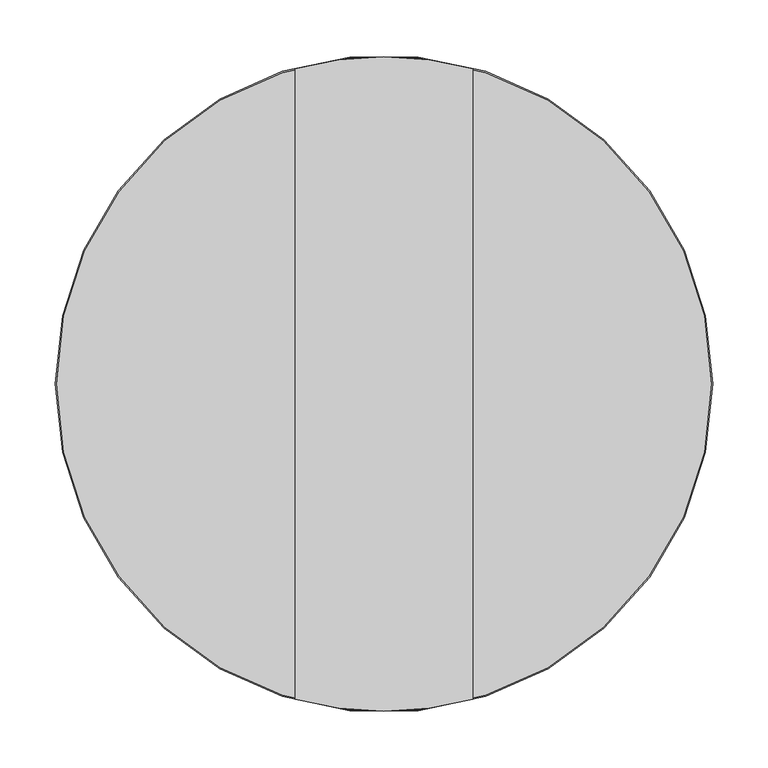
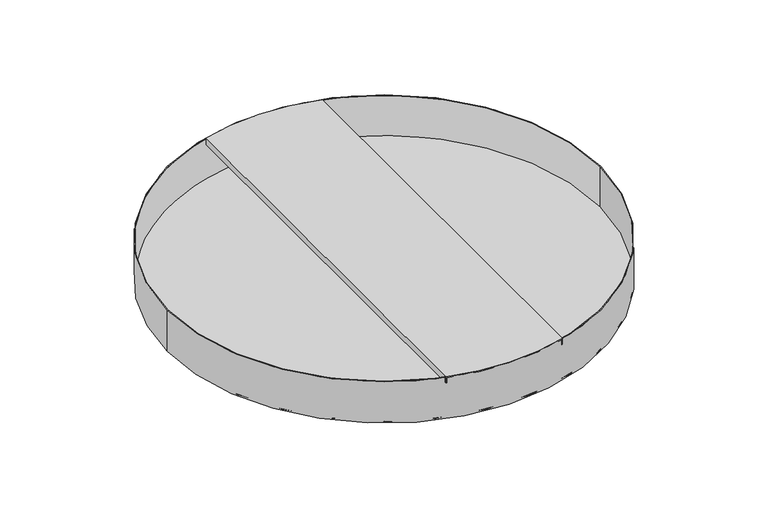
"""IFC4 building model written with IfcOpenShell, lengths in millimetres: proxy geometry, durlum_TOMEO-R : durlum_TOMEO-R 600 RG-L30 TR."""

from ifc_helpers import new_model, si_unit, point, frame, origin, origin_with_axes, origin_2d, place, context, project, spatial, circle_curve, trimmed, segment, composite_curve, outline, extrude, source, transform, mapped, element, save
from ifc_brep_helpers import plane_surface, cylinder_surface, advanced_brep


def generic_models_1725dbb2(model_context):
    return source(origin(), model_context, "Body", "SolidModel", [
        advanced_brep(
        [(-80.0, 284.4648484, 60.0), (-80.0, -284.4648484, 60.0), (0.0, -295.5, 60.0), (80.0, -284.4648484, 60.0), (80.0, 284.4648484, 60.0), (0.0, 295.5, 60.0), (80.0, -284.4648484, 51.2547795), (80.0, 284.4648484, 51.2547795), (78.5, -284.8824319, 51.2547795), (78.5, 284.8824319, 51.2547795), (78.5, -284.8824319, 58.5), (78.5, 284.8824319, 58.5), (0.0, -295.5, 58.5), (-78.5, -284.8824319, 58.5), (-78.5, 284.8824319, 58.5), (0.0, 295.5, 58.5), (-78.5, -284.8824319, 51.2547795), (-78.5, 284.8824319, 51.2547795), (-80.0, -284.4648484, 51.2547795), (-80.0, 284.4648484, 51.2547795)],
        [
            (0, 1),
            (1, 2, circle_curve(frame((0.0, 0.0, 60.0), z_axis=(0.0, 0.0, 1.0), x_axis=(0.0, -1.0, 0.0)), 295.5)),
            (2, 3, circle_curve(frame((0.0, 0.0, 60.0), z_axis=(0.0, 0.0, 1.0), x_axis=(0.0, -1.0, 0.0)), 295.5)),
            (3, 4),
            (4, 5, circle_curve(frame((0.0, 0.0, 60.0), z_axis=(0.0, 0.0, 1.0), x_axis=(0.0, -1.0, 0.0)), 295.5)),
            (5, 0, circle_curve(frame((0.0, 0.0, 60.0), z_axis=(0.0, 0.0, 1.0), x_axis=(0.0, -1.0, 0.0)), 295.5)),
            (3, 6),
            (6, 7),
            (7, 4),
            (6, 8, circle_curve(frame((0.0, 0.0, 51.2547795), z_axis=(0.0, 0.0, -1.0), x_axis=(0.0, -1.0, 0.0)), 295.5)),
            (8, 9),
            (9, 7, circle_curve(frame((0.0, 0.0, 51.2547795), z_axis=(0.0, 0.0, -1.0), x_axis=(0.0, -1.0, 0.0)), 295.5)),
            (8, 10),
            (10, 11),
            (11, 9),
            (10, 12, circle_curve(frame((0.0, 0.0, 58.5), z_axis=(0.0, 0.0, -1.0), x_axis=(0.0, -1.0, 0.0)), 295.5)),
            (12, 13, circle_curve(frame((0.0, 0.0, 58.5), z_axis=(0.0, 0.0, -1.0), x_axis=(0.0, -1.0, 0.0)), 295.5)),
            (13, 14),
            (14, 15, circle_curve(frame((0.0, 0.0, 58.5), z_axis=(0.0, 0.0, -1.0), x_axis=(0.0, -1.0, 0.0)), 295.5)),
            (15, 11, circle_curve(frame((0.0, 0.0, 58.5), z_axis=(0.0, 0.0, -1.0), x_axis=(0.0, -1.0, 0.0)), 295.5)),
            (13, 16),
            (16, 17),
            (17, 14),
            (16, 18, circle_curve(frame((0.0, 0.0, 51.2547795), z_axis=(0.0, 0.0, -1.0), x_axis=(0.0, -1.0, 0.0)), 295.5)),
            (18, 19),
            (19, 17, circle_curve(frame((0.0, 0.0, 51.2547795), z_axis=(0.0, 0.0, -1.0), x_axis=(0.0, -1.0, 0.0)), 295.5)),
            (0, 19),
            (18, 1),
            (5, 15),
            (12, 2),
        ],
        [
            plane_surface(frame((-80.0, 295.5, 60.0), z_axis=(0.0, 0.0, 1.0), x_axis=(0.0, -1.0, 0.0))),
            plane_surface(frame((80.0, 295.5, 60.0), z_axis=(1.0, 0.0, 0.0), x_axis=(0.0, -1.0, 0.0))),
            plane_surface(frame((80.0, 295.5, 51.2547795), z_axis=(0.0, 0.0, -1.0), x_axis=(0.0, -1.0, 0.0))),
            plane_surface(frame((78.5, 295.5, 51.2547795), z_axis=(-1.0, 0.0, 0.0), x_axis=(0.0, -1.0, 0.0))),
            plane_surface(frame((78.5, 295.5, 58.5), z_axis=(0.0, 0.0, -1.0), x_axis=(0.0, -1.0, 0.0))),
            plane_surface(frame((-78.5, 295.5, 58.5), z_axis=(1.0, 0.0, 0.0), x_axis=(0.0, -1.0, 0.0))),
            plane_surface(frame((-78.5, 295.5, 51.2547795), z_axis=(0.0, 0.0, -1.0), x_axis=(0.0, -1.0, 0.0))),
            plane_surface(frame((-80.0, 295.5, 51.2547795), z_axis=(-1.0, 0.0, 0.0), x_axis=(0.0, -1.0, 0.0))),
            cylinder_surface(frame((0.0, 0.0, 243.6547052), z_axis=(0.0, 0.0, -1.0), x_axis=(0.0, -1.0, 0.0)), 295.5),
        ],
        [
            (0, [[1, 2, 3, 4, 5, 6]]),
            (1, [[-4, 7, 8, 9]]),
            (2, [[-8, 10, 11, 12]]),
            (3, [[-11, 13, 14, 15]]),
            (4, [[-14, 16, 17, 18, 19, 20]]),
            (5, [[-18, 21, 22, 23]]),
            (6, [[-22, 24, 25, 26]]),
            (7, [[-1, 27, -25, 28]]),
            (8, [[29, -19, -23, -26, -27, -6]]),
            (8, [[30, -2, -28, -24, -21, -17]]),
            (8, [[-29, -5, -9, -12, -15, -20]]),
            (8, [[-30, -16, -13, -10, -7, -3]]),
        ],
    ),
        extrude(outline(composite_curve([segment(trimmed(circle_curve(origin_2d(), 295.5), [point((-295.5, 0.0))], [point((295.5, 0.0))], False, "CARTESIAN"), True, "CONTINUOUS"), segment(trimmed(circle_curve(origin_2d(), 295.5), [point((295.5, 0.0))], [point((-295.5, 0.0))], False, "CARTESIAN"), True, "CONTINUOUS")], self_intersect=False)), frame((0.0, 0.0, 1.0), z_axis=(0.0, 0.0, 1.0), x_axis=(1.0, 0.0, 0.0)), (0.0, 0.0, 1.0), 1.0),
        extrude(outline(composite_curve([segment(trimmed(circle_curve(origin_2d(), 295.5), [point((-295.5, 0.0))], [point((295.5, 0.0))], False, "CARTESIAN"), True, "CONTINUOUS"), segment(trimmed(circle_curve(origin_2d(), 295.5), [point((295.5, 0.0))], [point((-295.5, 0.0))], False, "CARTESIAN"), True, "CONTINUOUS")], self_intersect=False)), origin_with_axes(), (0.0, 0.0, 1.0), 1.0),
        extrude(outline(composite_curve([segment(trimmed(circle_curve(origin_2d(), 296.5), [point((-296.5, 0.0))], [point((296.5, 0.0))], False, "CARTESIAN"), True, "CONTINUOUS"), segment(trimmed(circle_curve(origin_2d(), 296.5), [point((296.5, 0.0))], [point((-296.5, 0.0))], False, "CARTESIAN"), True, "CONTINUOUS")], self_intersect=False), holes=[composite_curve([segment(trimmed(circle_curve(origin_2d(), 295.5), [point((-295.5, 0.0))], [point((295.5, 0.0))], True, "CARTESIAN"), True, "CONTINUOUS"), segment(trimmed(circle_curve(origin_2d(), 295.5), [point((295.5, 0.0))], [point((-295.5, 0.0))], True, "CARTESIAN"), True, "CONTINUOUS")], self_intersect=False)]), origin_with_axes(), (0.0, 0.0, 1.0), 60.0),
    ])


if __name__ == "__main__":
    model = new_model("IFC4")
    model_context = context("Model", 3, world=origin())
    ifc_project = project(units=[si_unit("LENGTHUNIT", "METRE", prefix="MILLI")], contexts=[model_context])
    site = spatial("IfcSite", under=ifc_project)
    building = spatial("IfcBuilding", under=site)
    placement = place(None, origin())
    generic_models_shape = generic_models_1725dbb2(model_context)
    element("IfcBuildingElementProxy", 1, Name="durlum_TOMEO-R : durlum_TOMEO-R 600 RG-L30 TR", ObjectType="durlum_TOMEO-R : durlum_TOMEO-R 600 RG-L30 TR", at=placement, inside=building, context=model_context, shape_type="MappedRepresentation", body=[
        mapped(generic_models_shape, transform((0.0, 0.0, 0.0), x_axis=(1.0, 0.0, 0.0), y_axis=(0.0, 1.0, 0.0), z_axis=(0.0, 0.0, 1.0))),
    ])
    save(model, "model.ifc")
